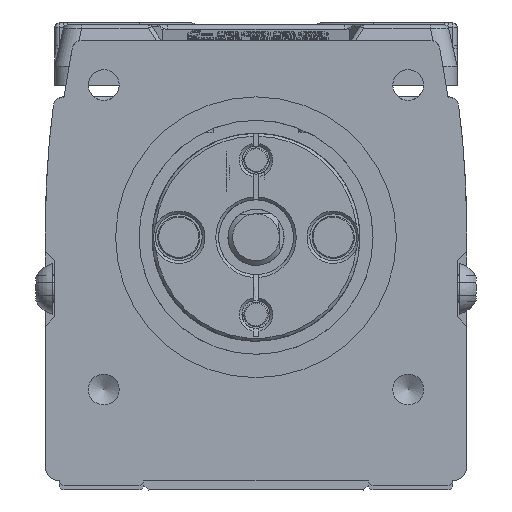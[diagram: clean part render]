
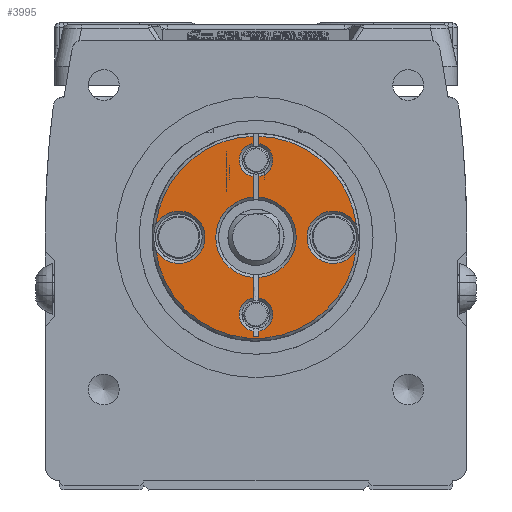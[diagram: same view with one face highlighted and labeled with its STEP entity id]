
A CAD part, left-side view. The second image highlights one B-rep face of the part: STEP entity #3995.
In plain terms, the highlighted planar face has unit normal (-1, 0, 0) as drawn and (1, 0, 0) by its records, which use the part's own axes.
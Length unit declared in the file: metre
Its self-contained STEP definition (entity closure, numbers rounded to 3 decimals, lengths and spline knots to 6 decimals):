
#3995=ADVANCED_FACE('',(#8560),#8561,.F.);
#8560=FACE_OUTER_BOUND('',#15477,.T.);
#8561=PLANE('',#15478);
#15477=EDGE_LOOP('',(#25776,#25777,#25778,#25779,#25780,#25781,#25782,#25783,#25784,#25785,#25786,#25787,#25788,#25789,#25790,#25791,#25792,#25793,#25794,#25795));
#15478=AXIS2_PLACEMENT_3D('',#25796,#25797,#25798);
#25776=ORIENTED_EDGE('',*,*,#39985,.F.);
#25777=ORIENTED_EDGE('',*,*,#39986,.T.);
#25778=ORIENTED_EDGE('',*,*,#39987,.F.);
#25779=ORIENTED_EDGE('',*,*,#39988,.F.);
#25780=ORIENTED_EDGE('',*,*,#39989,.T.);
#25781=ORIENTED_EDGE('',*,*,#39990,.T.);
#25782=ORIENTED_EDGE('',*,*,#39991,.F.);
#25783=ORIENTED_EDGE('',*,*,#39992,.F.);
#25784=ORIENTED_EDGE('',*,*,#39993,.F.);
#25785=ORIENTED_EDGE('',*,*,#39994,.T.);
#25786=ORIENTED_EDGE('',*,*,#39995,.F.);
#25787=ORIENTED_EDGE('',*,*,#39996,.F.);
#25788=ORIENTED_EDGE('',*,*,#39997,.F.);
#25789=ORIENTED_EDGE('',*,*,#39998,.F.);
#25790=ORIENTED_EDGE('',*,*,#39999,.F.);
#25791=ORIENTED_EDGE('',*,*,#40000,.F.);
#25792=ORIENTED_EDGE('',*,*,#40001,.F.);
#25793=ORIENTED_EDGE('',*,*,#40002,.F.);
#25794=ORIENTED_EDGE('',*,*,#40003,.T.);
#25795=ORIENTED_EDGE('',*,*,#40004,.F.);
#25796=CARTESIAN_POINT('',(0.0,0.0,0.));
#25797=DIRECTION('',(-1.0,0.,0.0));
#25798=DIRECTION('',(0.,-1.0,0.0));
#39985=EDGE_CURVE('',#47213,#47214,#47215,.F.);
#39986=EDGE_CURVE('',#47213,#47216,#47217,.T.);
#39987=EDGE_CURVE('',#47218,#47216,#47219,.F.);
#39988=EDGE_CURVE('',#47220,#47218,#47221,.T.);
#39989=EDGE_CURVE('',#47220,#47222,#47223,.F.);
#39990=EDGE_CURVE('',#47222,#47224,#47225,.T.);
#39991=EDGE_CURVE('',#47226,#47224,#47227,.F.);
#39992=EDGE_CURVE('',#47228,#47226,#47229,.T.);
#39993=EDGE_CURVE('',#47230,#47228,#47231,.T.);
#39994=EDGE_CURVE('',#47230,#47232,#47233,.T.);
#39995=EDGE_CURVE('',#47234,#47232,#47235,.F.);
#39996=EDGE_CURVE('',#47236,#47234,#47237,.T.);
#39997=EDGE_CURVE('',#47238,#47236,#47239,.T.);
#39998=EDGE_CURVE('',#47240,#47238,#47241,.T.);
#39999=EDGE_CURVE('',#47242,#47240,#47243,.T.);
#40000=EDGE_CURVE('',#47244,#47242,#47245,.T.);
#40001=EDGE_CURVE('',#47246,#47244,#47247,.T.);
#40002=EDGE_CURVE('',#47248,#47246,#47249,.T.);
#40003=EDGE_CURVE('',#47248,#47250,#47251,.F.);
#40004=EDGE_CURVE('',#47214,#47250,#47252,.T.);
#47213=VERTEX_POINT('',#57779);
#47214=VERTEX_POINT('',#57780);
#47215=LINE('',#57781,#57782);
#47216=VERTEX_POINT('',#57783);
#47217=CIRCLE('',#57784,0.0043);
#47218=VERTEX_POINT('',#57785);
#47219=LINE('',#57786,#57787);
#47220=VERTEX_POINT('',#57788);
#47221=CIRCLE('',#57789,0.0018);
#47222=VERTEX_POINT('',#57790);
#47223=LINE('',#57791,#57792);
#47224=VERTEX_POINT('',#57793);
#47225=LINE('',#57794,#57795);
#47226=VERTEX_POINT('',#57796);
#47227=LINE('',#57797,#57798);
#47228=VERTEX_POINT('',#57799);
#47229=CIRCLE('',#57800,0.0018);
#47230=VERTEX_POINT('',#57801);
#47231=LINE('',#57802,#57803);
#47232=VERTEX_POINT('',#57804);
#47233=CIRCLE('',#57805,0.0043);
#47234=VERTEX_POINT('',#57806);
#47235=LINE('',#57807,#57808);
#47236=VERTEX_POINT('',#57809);
#47237=CIRCLE('',#57810,0.0018);
#47238=VERTEX_POINT('',#57811);
#47239=LINE('',#57812,#57813);
#47240=VERTEX_POINT('',#57814);
#47241=CIRCLE('',#57815,0.0108);
#47242=VERTEX_POINT('',#57816);
#47243=CIRCLE('',#57817,0.0028);
#47244=VERTEX_POINT('',#57818);
#47245=CIRCLE('',#57819,0.0108);
#47246=VERTEX_POINT('',#57820);
#47247=CIRCLE('',#57821,0.0028);
#47248=VERTEX_POINT('',#57822);
#47249=CIRCLE('',#57823,0.0108);
#47250=VERTEX_POINT('',#57824);
#47251=LINE('',#57825,#57826);
#47252=CIRCLE('',#57827,0.0018);
#57779=CARTESIAN_POINT('',(0.,0.00429,-0.0003));
#57780=CARTESIAN_POINT('',(0.,0.006475,-0.0003));
#57781=CARTESIAN_POINT('',(0.0,0.0,-0.0003));
#57782=VECTOR('',#68928,1.0);
#57783=CARTESIAN_POINT('',(0.,-0.00429,-0.0003));
#57784=AXIS2_PLACEMENT_3D('',#68929,#68930,#68931);
#57785=CARTESIAN_POINT('',(0.,-0.006475,-0.0003));
#57786=CARTESIAN_POINT('',(0.0,0.0,-0.0003));
#57787=VECTOR('',#68932,1.0);
#57788=CARTESIAN_POINT('',(0.,-0.010025,-0.0003));
#57789=AXIS2_PLACEMENT_3D('',#68933,#68934,#68935);
#57790=CARTESIAN_POINT('',(0.,-0.010642,-0.0003));
#57791=CARTESIAN_POINT('',(0.0,0.0025,-0.0003));
#57792=VECTOR('',#68936,1.0);
#57793=CARTESIAN_POINT('',(0.,-0.010642,0.0003));
#57794=CARTESIAN_POINT('',(0.,-0.010642,0.0003));
#57795=VECTOR('',#68937,1.0);
#57796=CARTESIAN_POINT('',(0.,-0.010025,0.0003));
#57797=CARTESIAN_POINT('',(0.0,0.0025,0.0003));
#57798=VECTOR('',#68938,1.0);
#57799=CARTESIAN_POINT('',(0.,-0.006475,0.0003));
#57800=AXIS2_PLACEMENT_3D('',#68939,#68940,#68941);
#57801=CARTESIAN_POINT('',(0.,-0.00429,0.0003));
#57802=CARTESIAN_POINT('',(0.0,0.0,0.0003));
#57803=VECTOR('',#68942,1.0);
#57804=CARTESIAN_POINT('',(0.0,0.00429,0.0003));
#57805=AXIS2_PLACEMENT_3D('',#68943,#68944,#68945);
#57806=CARTESIAN_POINT('',(0.0,0.006475,0.0003));
#57807=CARTESIAN_POINT('',(0.0,0.0025,0.0003));
#57808=VECTOR('',#68946,1.0);
#57809=CARTESIAN_POINT('',(0.,0.010025,0.0003));
#57810=AXIS2_PLACEMENT_3D('',#68947,#68948,#68949);
#57811=CARTESIAN_POINT('',(0.,0.010796,0.0003));
#57812=CARTESIAN_POINT('',(0.0,0.0,0.0003));
#57813=VECTOR('',#68950,1.0);
#57814=CARTESIAN_POINT('',(0.,0.001321,0.010719));
#57815=AXIS2_PLACEMENT_3D('',#68951,#68952,#68953);
#57816=CARTESIAN_POINT('',(0.,-0.001321,0.010719));
#57817=AXIS2_PLACEMENT_3D('',#68954,#68955,#68956);
#57818=CARTESIAN_POINT('',(0.,-0.001321,-0.010719));
#57819=AXIS2_PLACEMENT_3D('',#68957,#68958,#68959);
#57820=CARTESIAN_POINT('',(0.,0.001321,-0.010719));
#57821=AXIS2_PLACEMENT_3D('',#68960,#68961,#68962);
#57822=CARTESIAN_POINT('',(0.,0.010796,-0.0003));
#57823=AXIS2_PLACEMENT_3D('',#68963,#68964,#68965);
#57824=CARTESIAN_POINT('',(0.,0.010025,-0.0003));
#57825=CARTESIAN_POINT('',(0.0,0.0025,-0.0003));
#57826=VECTOR('',#68966,1.0);
#57827=AXIS2_PLACEMENT_3D('',#68967,#68968,#68969);
#68928=DIRECTION('',(0.,-1.0,0.0));
#68929=CARTESIAN_POINT('',(0.,0.,0.));
#68930=DIRECTION('',(-1.0,0.,0.0));
#68931=DIRECTION('',(0.,-1.0,0.0));
#68932=DIRECTION('',(0.,-1.0,0.0));
#68933=CARTESIAN_POINT('',(0.0,-0.00825,0.));
#68934=DIRECTION('',(1.0,0.0,0.0));
#68935=DIRECTION('',(0.0,0.0,-1.0));
#68936=DIRECTION('',(0.0,1.0,0.0));
#68937=DIRECTION('',(0.0,0.0,1.0));
#68938=DIRECTION('',(0.0,1.0,0.0));
#68939=CARTESIAN_POINT('',(0.0,-0.00825,0.));
#68940=DIRECTION('',(1.0,0.0,0.0));
#68941=DIRECTION('',(0.0,0.0,-1.0));
#68942=DIRECTION('',(0.,-1.0,0.0));
#68943=CARTESIAN_POINT('',(0.,0.,0.));
#68944=DIRECTION('',(-1.0,0.,0.0));
#68945=DIRECTION('',(0.,-1.0,0.0));
#68946=DIRECTION('',(0.0,1.0,0.0));
#68947=CARTESIAN_POINT('',(0.0,0.00825,0.));
#68948=DIRECTION('',(1.0,0.0,0.0));
#68949=DIRECTION('',(0.0,0.0,-1.0));
#68950=DIRECTION('',(0.,-1.0,0.0));
#68951=CARTESIAN_POINT('',(0.,0.0,0.));
#68952=DIRECTION('',(-1.0,0.0,0.0));
#68953=DIRECTION('',(0.0,0.0,1.0));
#68954=CARTESIAN_POINT('',(0.0,0.,0.00825));
#68955=DIRECTION('',(1.0,0.,0.0));
#68956=DIRECTION('',(0.,1.0,0.0));
#68957=CARTESIAN_POINT('',(0.,0.0,0.));
#68958=DIRECTION('',(-1.0,0.0,0.0));
#68959=DIRECTION('',(0.0,0.0,1.0));
#68960=CARTESIAN_POINT('',(0.,0.,-0.00825));
#68961=DIRECTION('',(1.0,0.,0.0));
#68962=DIRECTION('',(0.,1.0,0.0));
#68963=CARTESIAN_POINT('',(0.,0.0,0.));
#68964=DIRECTION('',(-1.0,0.0,0.0));
#68965=DIRECTION('',(0.0,0.0,1.0));
#68966=DIRECTION('',(0.0,1.0,0.0));
#68967=CARTESIAN_POINT('',(0.0,0.00825,0.));
#68968=DIRECTION('',(1.0,0.0,0.0));
#68969=DIRECTION('',(0.0,0.0,-1.0));
